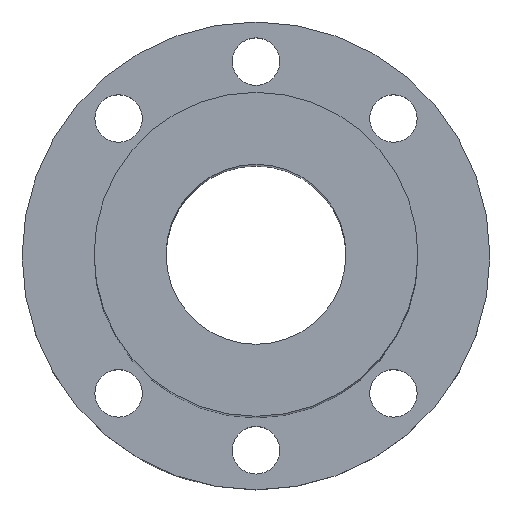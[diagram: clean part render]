
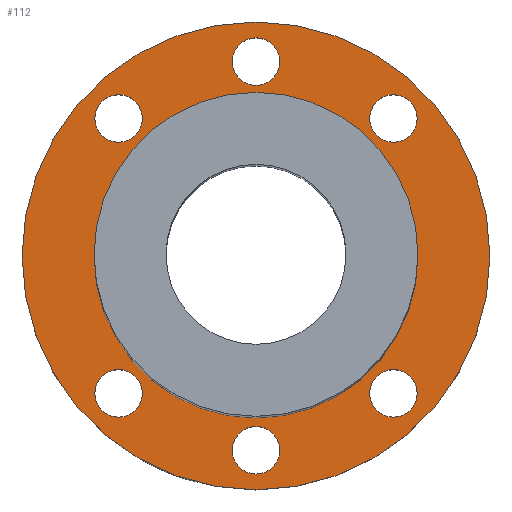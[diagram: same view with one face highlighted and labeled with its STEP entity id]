
A CAD part, top view. The second image highlights one B-rep face of the part: STEP entity #112.
In plain terms, the highlighted planar face has unit normal (0, 0, 1).
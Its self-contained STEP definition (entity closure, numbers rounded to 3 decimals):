
#99=PLANE('',#355);
#112=ADVANCED_FACE('',(#159,#160,#161,#162,#163,#164,#165,#166),#99,.T.);
#159=FACE_BOUND('',#203,.T.);
#160=FACE_BOUND('',#204,.T.);
#161=FACE_BOUND('',#205,.T.);
#162=FACE_BOUND('',#206,.T.);
#163=FACE_BOUND('',#207,.T.);
#164=FACE_BOUND('',#208,.T.);
#165=FACE_BOUND('',#209,.T.);
#166=FACE_BOUND('',#210,.T.);
#203=EDGE_LOOP('',(#247));
#204=EDGE_LOOP('',(#248));
#205=EDGE_LOOP('',(#249));
#206=EDGE_LOOP('',(#250));
#207=EDGE_LOOP('',(#251));
#208=EDGE_LOOP('',(#252));
#209=EDGE_LOOP('',(#253));
#210=EDGE_LOOP('',(#254));
#247=ORIENTED_EDGE('',*,*,#284,.T.);
#248=ORIENTED_EDGE('',*,*,#301,.T.);
#249=ORIENTED_EDGE('',*,*,#300,.F.);
#250=ORIENTED_EDGE('',*,*,#299,.F.);
#251=ORIENTED_EDGE('',*,*,#298,.F.);
#252=ORIENTED_EDGE('',*,*,#286,.T.);
#253=ORIENTED_EDGE('',*,*,#297,.T.);
#254=ORIENTED_EDGE('',*,*,#302,.T.);
#262=VERTEX_POINT('',#437);
#264=VERTEX_POINT('',#499);
#275=VERTEX_POINT('',#582);
#276=VERTEX_POINT('',#585);
#277=VERTEX_POINT('',#588);
#278=VERTEX_POINT('',#591);
#279=VERTEX_POINT('',#594);
#280=VERTEX_POINT('',#597);
#284=EDGE_CURVE('',#262,#262,#306,.T.);
#286=EDGE_CURVE('',#264,#264,#307,.T.);
#297=EDGE_CURVE('',#275,#275,#317,.T.);
#298=EDGE_CURVE('',#276,#276,#318,.T.);
#299=EDGE_CURVE('',#277,#277,#319,.T.);
#300=EDGE_CURVE('',#278,#278,#320,.T.);
#301=EDGE_CURVE('',#279,#279,#321,.T.);
#302=EDGE_CURVE('',#280,#280,#322,.T.);
#306=CIRCLE('',#327,32.5);
#307=CIRCLE('',#329,22.5);
#317=CIRCLE('',#343,3.3);
#318=CIRCLE('',#345,3.3);
#319=CIRCLE('',#347,3.3);
#320=CIRCLE('',#349,3.3);
#321=CIRCLE('',#351,3.3);
#322=CIRCLE('',#353,3.3);
#327=AXIS2_PLACEMENT_3D('',#436,#365,#366);
#329=AXIS2_PLACEMENT_3D('',#498,#369,#370);
#343=AXIS2_PLACEMENT_3D('',#581,#397,#398);
#345=AXIS2_PLACEMENT_3D('',#584,#401,#402);
#347=AXIS2_PLACEMENT_3D('',#587,#405,#406);
#349=AXIS2_PLACEMENT_3D('',#590,#409,#410);
#351=AXIS2_PLACEMENT_3D('',#593,#413,#414);
#353=AXIS2_PLACEMENT_3D('',#596,#417,#418);
#355=AXIS2_PLACEMENT_3D('',#599,#421,#422);
#365=DIRECTION('',(0.,0.,1.));
#366=DIRECTION('',(1.,0.,0.));
#369=DIRECTION('',(0.,0.,-1.));
#370=DIRECTION('',(1.,0.,0.));
#397=DIRECTION('',(0.,0.,-1.));
#398=DIRECTION('',(1.,0.,0.));
#401=DIRECTION('',(0.,0.,1.));
#402=DIRECTION('',(-1.,0.,0.));
#405=DIRECTION('',(0.,0.,1.));
#406=DIRECTION('',(1.,0.,0.));
#409=DIRECTION('',(0.,0.,1.));
#410=DIRECTION('',(1.,0.,0.));
#413=DIRECTION('',(0.,0.,-1.));
#414=DIRECTION('',(1.,0.,0.));
#417=DIRECTION('',(0.,0.,-1.));
#418=DIRECTION('',(-1.,0.,0.));
#421=DIRECTION('',(0.,0.,1.));
#422=DIRECTION('',(1.,0.,0.));
#436=CARTESIAN_POINT('',(0.,0.,10.));
#437=CARTESIAN_POINT('',(32.5,0.,10.));
#498=CARTESIAN_POINT('',(0.,0.,10.));
#499=CARTESIAN_POINT('',(22.5,0.,10.));
#581=CARTESIAN_POINT('',(0.,-27.,10.));
#582=CARTESIAN_POINT('',(3.3,-27.,10.));
#584=CARTESIAN_POINT('',(19.092,-19.092,10.));
#585=CARTESIAN_POINT('',(15.792,-19.092,10.));
#587=CARTESIAN_POINT('',(-19.092,19.092,10.));
#588=CARTESIAN_POINT('',(-15.792,19.092,10.));
#590=CARTESIAN_POINT('',(0.,27.,10.));
#591=CARTESIAN_POINT('',(3.3,27.,10.));
#593=CARTESIAN_POINT('',(-19.092,-19.092,10.));
#594=CARTESIAN_POINT('',(-15.792,-19.092,10.));
#596=CARTESIAN_POINT('',(19.092,19.092,10.));
#597=CARTESIAN_POINT('',(15.792,19.092,10.));
#599=CARTESIAN_POINT('',(-9.546,-9.546,10.));
